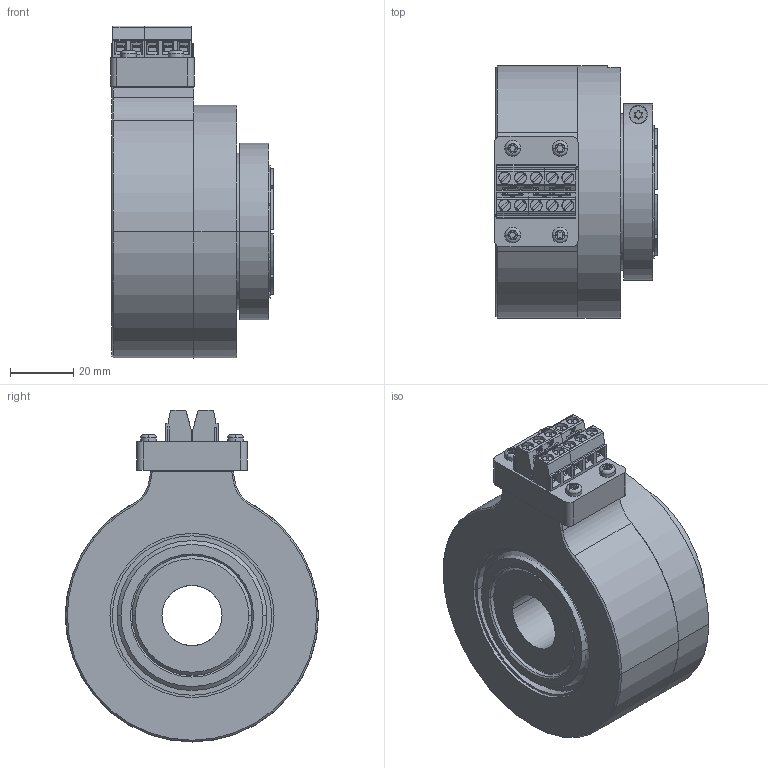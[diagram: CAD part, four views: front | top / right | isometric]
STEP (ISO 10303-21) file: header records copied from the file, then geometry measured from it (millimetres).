
FILE_DESCRIPTION (( 'STEP AP203' ), '1' );
FILE_NAME ('K80I.OXX.XXXXX.XH2085A.4XRCF.step', '2025-12-09T09:44:59', ( '' ), ( '' ), 'SwSTEP 2.0', 'SolidWorks 2021', '' );
FILE_SCHEMA (( 'CONFIG_CONTROL_DESIGN' ));
Products named in the file (1): K80I.OXX.XXXXX.XH2085A.4XRCF
Bounding box: 51.6 x 80.15 x 105.19 mm (x, y, z)
Volume: 220042.9 mm3; surface area: 77330.9 mm2
Topology: 41 solids, 41 shells, 3125 faces, 8659 edges, 5707 vertices
Faces by surface type: plane 2504, cylinder 535, cone 38, bspline 30, torus 18
Entity records: 100910 total; most frequent: CARTESIAN_POINT 20086, ORIENTED_EDGE 17302, DIRECTION 15907, EDGE_CURVE 8651, LINE 7243, VECTOR 7243, VERTEX_POINT 5707, AXIS2_PLACEMENT_3D 4332
